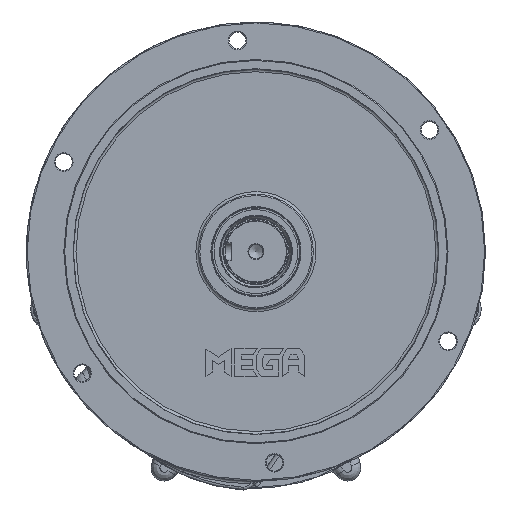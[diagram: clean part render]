
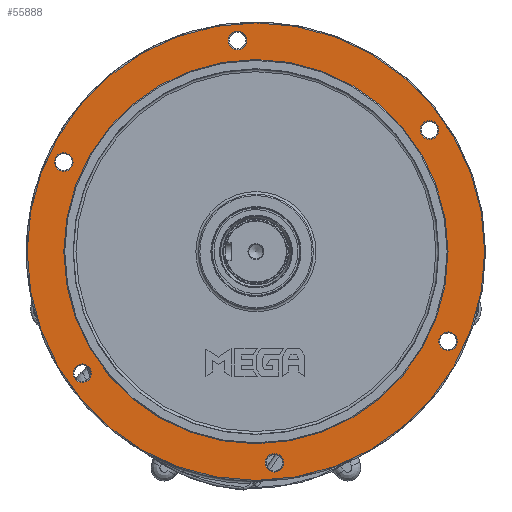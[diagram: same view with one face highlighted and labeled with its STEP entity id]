
A CAD part, front view. The second image highlights one B-rep face of the part: STEP entity #55888.
In plain terms, the highlighted planar face has unit normal (0, -1, 0).
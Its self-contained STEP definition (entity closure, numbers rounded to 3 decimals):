
#3150=FACE_BOUND('',#9746,.T.);
#3151=FACE_BOUND('',#9747,.T.);
#3152=FACE_BOUND('',#9748,.T.);
#3153=FACE_BOUND('',#9749,.T.);
#3154=FACE_BOUND('',#9750,.T.);
#3155=FACE_BOUND('',#9751,.T.);
#3156=FACE_BOUND('',#9752,.T.);
#3954=PLANE('',#60914);
#6302=FACE_OUTER_BOUND('',#9745,.T.);
#9745=EDGE_LOOP('',(#43966));
#9746=EDGE_LOOP('',(#43967));
#9747=EDGE_LOOP('',(#43968));
#9748=EDGE_LOOP('',(#43969));
#9749=EDGE_LOOP('',(#43970));
#9750=EDGE_LOOP('',(#43971));
#9751=EDGE_LOOP('',(#43972));
#9752=EDGE_LOOP('',(#43973));
#19085=CIRCLE('',#60683,259.);
#19088=CIRCLE('',#60688,217.5);
#19190=CIRCLE('',#60881,10.5);
#19197=CIRCLE('',#60895,10.5);
#19200=CIRCLE('',#60900,10.5);
#19203=CIRCLE('',#60905,10.5);
#19206=CIRCLE('',#60910,10.5);
#19209=CIRCLE('',#60915,10.5);
#23837=VERTEX_POINT('',#107190);
#23840=VERTEX_POINT('',#107199);
#24010=VERTEX_POINT('',#109241);
#24019=VERTEX_POINT('',#109365);
#24022=VERTEX_POINT('',#109375);
#24025=VERTEX_POINT('',#109385);
#24028=VERTEX_POINT('',#109395);
#24031=VERTEX_POINT('',#109405);
#30609=EDGE_CURVE('',#23837,#23837,#19085,.T.);
#30614=EDGE_CURVE('',#23840,#23840,#19088,.T.);
#30902=EDGE_CURVE('',#24010,#24010,#19190,.T.);
#30920=EDGE_CURVE('',#24019,#24019,#19197,.T.);
#30925=EDGE_CURVE('',#24022,#24022,#19200,.T.);
#30930=EDGE_CURVE('',#24025,#24025,#19203,.T.);
#30935=EDGE_CURVE('',#24028,#24028,#19206,.T.);
#30940=EDGE_CURVE('',#24031,#24031,#19209,.T.);
#43966=ORIENTED_EDGE('',*,*,#30609,.F.);
#43967=ORIENTED_EDGE('',*,*,#30935,.F.);
#43968=ORIENTED_EDGE('',*,*,#30925,.F.);
#43969=ORIENTED_EDGE('',*,*,#30902,.F.);
#43970=ORIENTED_EDGE('',*,*,#30614,.F.);
#43971=ORIENTED_EDGE('',*,*,#30920,.F.);
#43972=ORIENTED_EDGE('',*,*,#30930,.F.);
#43973=ORIENTED_EDGE('',*,*,#30940,.F.);
#55888=ADVANCED_FACE('',(#6302,#3150,#3151,#3152,#3153,#3154,#3155,#3156),
#3954,.T.);
#60683=AXIS2_PLACEMENT_3D('',#107191,#72336,#72337);
#60688=AXIS2_PLACEMENT_3D('',#107201,#72348,#72349);
#60881=AXIS2_PLACEMENT_3D('',#109242,#72848,#72849);
#60895=AXIS2_PLACEMENT_3D('',#109366,#72880,#72881);
#60900=AXIS2_PLACEMENT_3D('',#109376,#72892,#72893);
#60905=AXIS2_PLACEMENT_3D('',#109386,#72904,#72905);
#60910=AXIS2_PLACEMENT_3D('',#109396,#72916,#72917);
#60914=AXIS2_PLACEMENT_3D('',#109404,#72926,#72927);
#60915=AXIS2_PLACEMENT_3D('',#109406,#72928,#72929);
#72336=DIRECTION('center_axis',(0.,1.,0.));
#72337=DIRECTION('ref_axis',(-1.,0.,0.));
#72348=DIRECTION('center_axis',(0.,-1.,0.));
#72349=DIRECTION('ref_axis',(-1.,0.,0.));
#72848=DIRECTION('center_axis',(0.,-1.,0.));
#72849=DIRECTION('ref_axis',(-1.,0.,0.));
#72880=DIRECTION('center_axis',(0.,-1.,0.));
#72881=DIRECTION('ref_axis',(-0.5,0.,0.866));
#72892=DIRECTION('center_axis',(0.,-1.,0.));
#72893=DIRECTION('ref_axis',(0.5,0.,0.866));
#72904=DIRECTION('center_axis',(0.,-1.,0.));
#72905=DIRECTION('ref_axis',(1.,0.,0.));
#72916=DIRECTION('center_axis',(0.,-1.,0.));
#72917=DIRECTION('ref_axis',(0.5,0.,-0.866));
#72926=DIRECTION('center_axis',(0.,-1.,0.));
#72927=DIRECTION('ref_axis',(0.,0.,-1.));
#72928=DIRECTION('center_axis',(0.,-1.,0.));
#72929=DIRECTION('ref_axis',(-0.5,0.,-0.866));
#107190=CARTESIAN_POINT('',(259.228,-235.728,63.25));
#107191=CARTESIAN_POINT('Origin',(0.228,-235.728,63.25));
#107199=CARTESIAN_POINT('',(217.728,-235.728,63.25));
#107201=CARTESIAN_POINT('Origin',(0.228,-235.728,63.25));
#109241=CARTESIAN_POINT('',(-10.189,-235.728,302.337));
#109242=CARTESIAN_POINT('Origin',(-20.689,-235.728,302.337));
#109365=CARTESIAN_POINT('',(202.075,-235.728,191.815));
#109366=CARTESIAN_POINT('Origin',(196.825,-235.728,200.908));
#109375=CARTESIAN_POINT('',(212.492,-235.728,-47.272));
#109376=CARTESIAN_POINT('Origin',(217.742,-235.728,-38.178));
#109385=CARTESIAN_POINT('',(10.646,-235.728,-175.837));
#109386=CARTESIAN_POINT('Origin',(21.146,-235.728,-175.837));
#109395=CARTESIAN_POINT('',(-201.618,-235.728,-65.315));
#109396=CARTESIAN_POINT('Origin',(-196.368,-235.728,-74.408));
#109404=CARTESIAN_POINT('Origin',(0.228,-235.728,63.252));
#109405=CARTESIAN_POINT('',(-212.035,-235.728,173.772));
#109406=CARTESIAN_POINT('Origin',(-217.285,-235.728,164.678));
